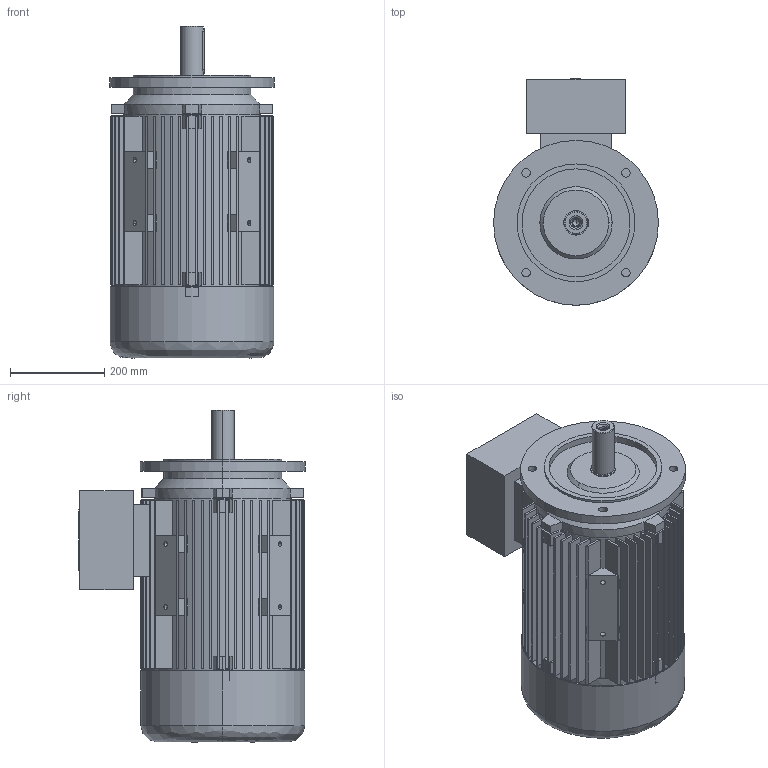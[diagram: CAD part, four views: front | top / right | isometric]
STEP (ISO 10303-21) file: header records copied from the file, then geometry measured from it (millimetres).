
FILE_DESCRIPTION (( 'STEP AP203' ), '1' );
FILE_NAME ('20.18370_B 7AZ 180 M&L B3 STANDK.STEP', '2018-03-29T11:19:39', ( '' ), ( '' ), 'SwSTEP 2.0', 'SolidWorks 2017', '' );
FILE_SCHEMA (( 'CONFIG_CONTROL_DESIGN' ));
Length unit declared in the file: millimetre
Products named in the file (1): 20.18370_B  7AZ 180 M&L B3 STANDK
Bounding box: 350 x 481 x 705 mm (x, y, z)
Volume: 19429263.4 mm3; surface area: 3122121.4 mm2
Topology: 12 solids, 12 shells, 739 faces, 1964 edges, 1283 vertices
Faces by surface type: plane 519, cylinder 169, cone 38, bspline 13
Entity records: 23664 total; most frequent: CARTESIAN_POINT 4862, DIRECTION 3958, ORIENTED_EDGE 3892, EDGE_CURVE 1946, AXIS2_PLACEMENT_3D 1327, LINE 1304, VECTOR 1304, VERTEX_POINT 1283
